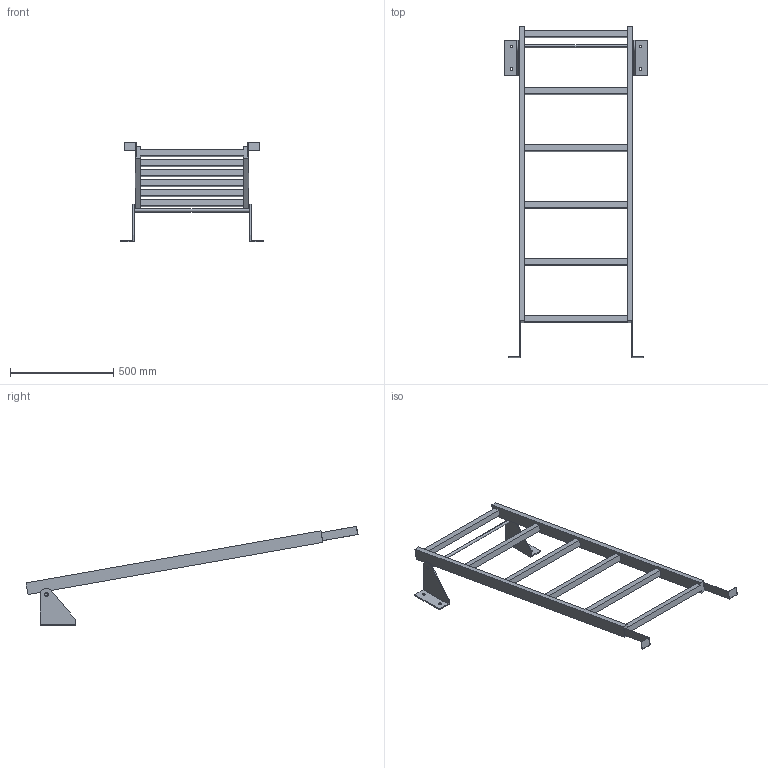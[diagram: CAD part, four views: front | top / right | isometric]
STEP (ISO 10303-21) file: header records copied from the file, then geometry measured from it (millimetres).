
FILE_DESCRIPTION((''),'2;1');
FILE_NAME('52309757','2024-10-17T08:54:51',('wep'),('HUBER SE'),'CREO PARAMETRIC BY PTC INC, 2022162','CREO PARAMETRIC BY PTC INC, 2022162','');
FILE_SCHEMA(('AUTOMOTIVE_DESIGN { 1 0 10303 214 1 1 1 1 }'));
Length unit declared in the file: millimetre
Products named in the file (1): 52309757
Bounding box: 690 x 1607.75 x 480.92 mm (x, y, z)
Volume: 7337302.1 mm3; surface area: 1028678.7 mm2
Topology: 4 solids, 4 shells, 82 faces, 216 edges, 144 vertices
Faces by surface type: plane 66, cylinder 16
Entity records: 3119 total; most frequent: CARTESIAN_POINT 444, ORIENTED_EDGE 432, DIRECTION 412, EDGE_CURVE 216, VECTOR 184, LINE 184, VERTEX_POINT 144, AXIS2_PLACEMENT_3D 114
